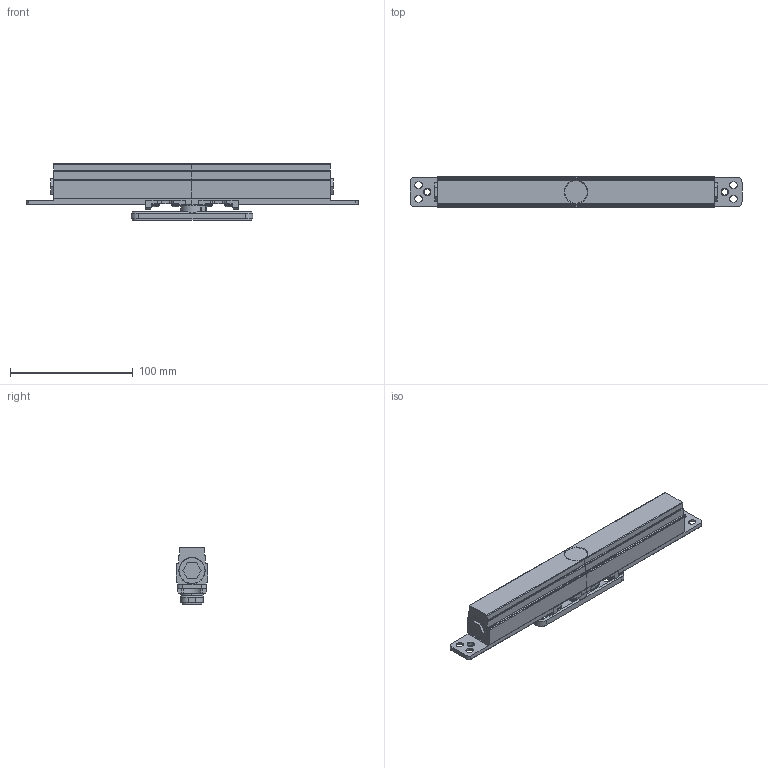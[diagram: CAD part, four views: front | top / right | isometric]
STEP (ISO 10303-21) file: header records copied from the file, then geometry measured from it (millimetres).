
FILE_DESCRIPTION(/* description */ (''),/* implementation_level */ '2;1');
FILE_NAME(/* name */ 'Stealthpivot-XL-step',/* time_stamp */ '2024-06-14T14:18:45+02:00',/* author */ (''),/* organization */ (''),/* preprocessor_version */ 'ST-DEVELOPER v16.5',/* originating_system */ '',/* authorisation */ '');
FILE_SCHEMA (('AUTOMOTIVE_DESIGN'));
Length unit declared in the file: millimetre
Products named in the file (1): Document
Bounding box: 270 x 25.25 x 45.75 mm (x, y, z)
Volume: 185767 mm3; surface area: 37189.3 mm2
Topology: 2 solids, 2 shells, 472 faces, 1215 edges, 749 vertices
Faces by surface type: bspline 248, plane 224
Entity records: 13829 total; most frequent: CARTESIAN_POINT 6734, ORIENTED_EDGE 2398, EDGE_CURVE 1199, VERTEX_POINT 749, B_SPLINE_CURVE_WITH_KNOTS 546, EDGE_LOOP 506, ADVANCED_FACE 472, FACE_OUTER_BOUND 472
